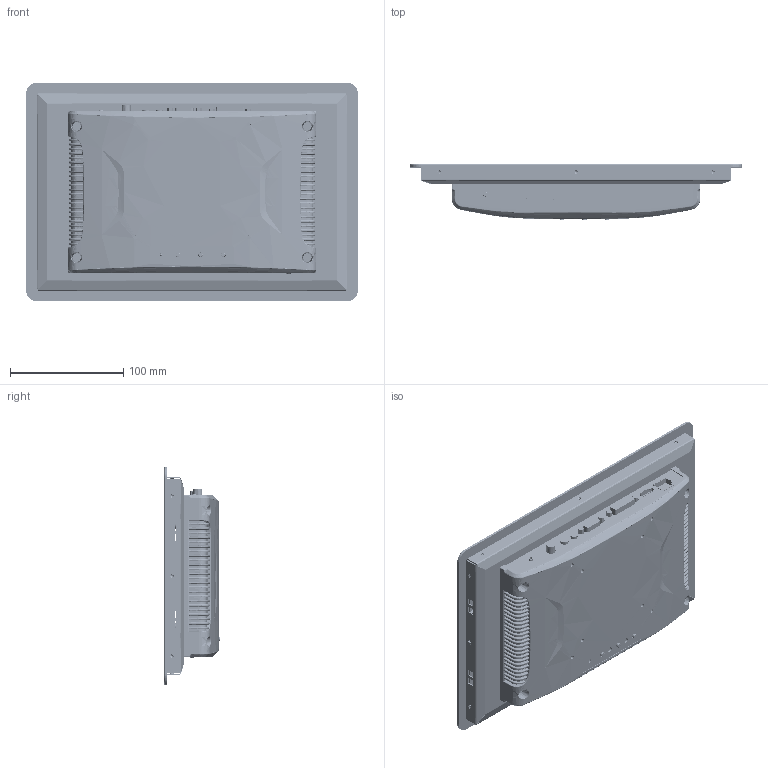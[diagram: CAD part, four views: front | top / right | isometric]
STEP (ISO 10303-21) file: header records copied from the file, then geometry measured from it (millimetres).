
FILE_DESCRIPTION((''),'2;1');
FILE_NAME('MONITOR_101_36_014_0000368_ASM','2020-07-08T',('Administrator'),(''),'CREO PARAMETRIC BY PTC INC, 2015290','CREO PARAMETRIC BY PTC INC, 2015290','');
FILE_SCHEMA(('CONFIG_CONTROL_DESIGN'));
Products named in the file (1): MONITOR_101_36_014_0000368_ASM
Bounding box: 293.6 x 49.53 x 193.6 mm (x, y, z)
Surface area: 518980.8 mm2 (no closed solid volume)
Topology: 0 solids, 0 shells, 3916 faces, 20089 edges, 19968 vertices
Faces by surface type: bspline 3622, torus 282, sphere 12
Entity records: 342833 total; most frequent: CARTESIAN_POINT 167433, DIRECTION 26615, TRIMMED_CURVE 23246, VECTOR 20465, LINE 20465, DEFINITIONAL_REPRESENTATION 19895, PCURVE 19895, COMPOSITE_CURVE_SEGMENT 19895
